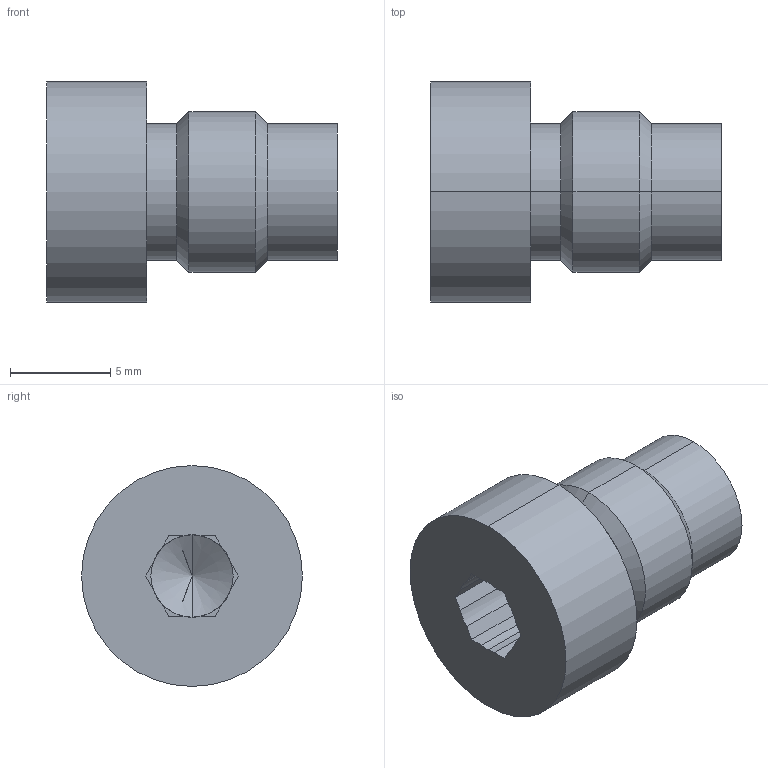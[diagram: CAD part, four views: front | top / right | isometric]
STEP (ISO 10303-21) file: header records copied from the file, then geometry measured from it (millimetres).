
FILE_DESCRIPTION (( 'STEP AP203' ), '1' );
FILE_NAME ('HB0.step', '2013-07-29T06:20:28', ( 'Wandfluh AG' ), ( 'Wandfluh AG' ), 'SwSTEP 2.0', 'SolidWorks 2012', '' );
FILE_SCHEMA (( 'CONFIG_CONTROL_DESIGN' ));
Length unit declared in the file: millimetre
Products named in the file (1): HB0
Bounding box: 14.5 x 11 x 11 mm (x, y, z)
Volume: 611.9 mm3; surface area: 934.2 mm2
Topology: 2 solids, 2 shells, 51 faces, 122 edges, 74 vertices
Faces by surface type: plane 23, cylinder 14, cone 8, bspline 4, torus 2
Entity records: 1573 total; most frequent: CARTESIAN_POINT 316, DIRECTION 260, ORIENTED_EDGE 236, EDGE_CURVE 118, AXIS2_PLACEMENT_3D 98, VERTEX_POINT 74, VECTOR 64, LINE 64
